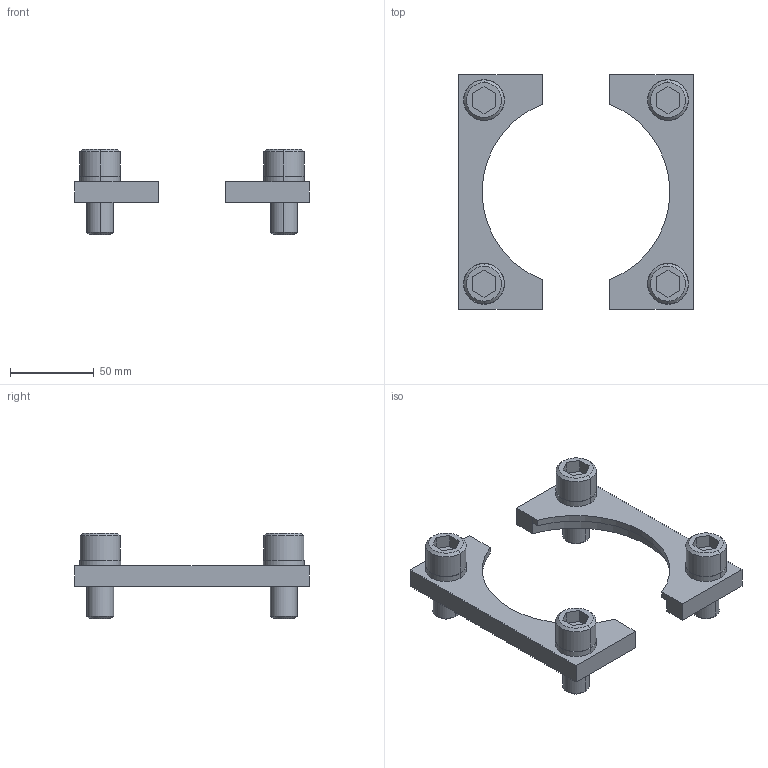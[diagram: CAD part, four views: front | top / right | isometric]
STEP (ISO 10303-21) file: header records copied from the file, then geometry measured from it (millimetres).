
FILE_DESCRIPTION(/* description */ (''),/* implementation_level */ '2;1');
FILE_NAME(/* name */ '3d_sf120_05182_r00.stp',/* time_stamp */ '2011-01-10T14:11:14+09:00',/* author */ ('MISUMI'),/* organization */ (''),/* preprocessor_version */ 'ST-DEVELOPER v11',/* originating_system */ 'UGS - NX 5.0',/* authorisation */ '');
FILE_SCHEMA (('CONFIG_CONTROL_DESIGN'));
Length unit declared in the file: millimetre
Products named in the file (1): 3d_sf120_05182_r00
Bounding box: 140 x 140 x 51 mm (x, y, z)
Volume: 135811.6 mm3; surface area: 48166.7 mm2
Topology: 10 solids, 10 shells, 136 faces, 304 edges, 196 vertices
Faces by surface type: plane 76, cylinder 44, cone 16
Entity records: 3856 total; most frequent: DIRECTION 682, CARTESIAN_POINT 637, ORIENTED_EDGE 608, EDGE_CURVE 304, AXIS2_PLACEMENT_3D 241, LINE 200, VECTOR 200, VERTEX_POINT 196
